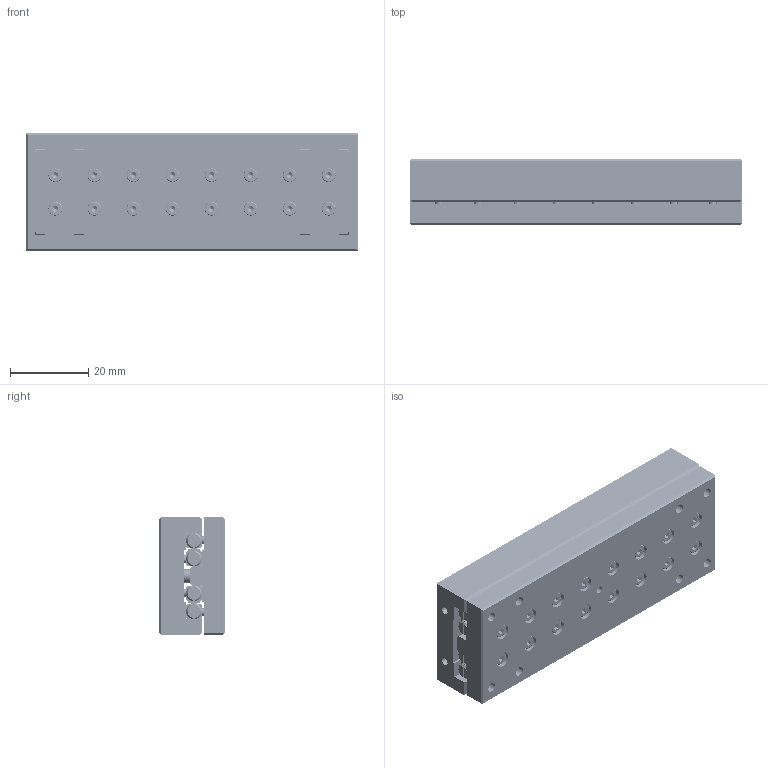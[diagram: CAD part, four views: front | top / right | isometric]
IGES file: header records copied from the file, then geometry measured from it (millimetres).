
Start section: SolidWorks IGES file using analytic representation for surfaces
Global section: file name: C:\Documents and Settings\IanO.IANOHOME\My Documents\Wix and Auto CAD Work\CAD Models\Parametric Models\Auto Models\L1020\L1020_IGES\L1020.030-085.igs; native system: SolidWorks 2009; preprocessor: SolidWorks 2009; author: IanO; date: 110922.162058; units: millimetre
Bounding box: 85 x 17 x 30 mm (x, y, z)
Surface area: 28494.7 mm2 (no closed solid volume)
Topology: 0 solids, 0 shells, 2108 faces, 26016 edges, 25936 vertices
Faces by surface type: bspline 1292, revolution 816
